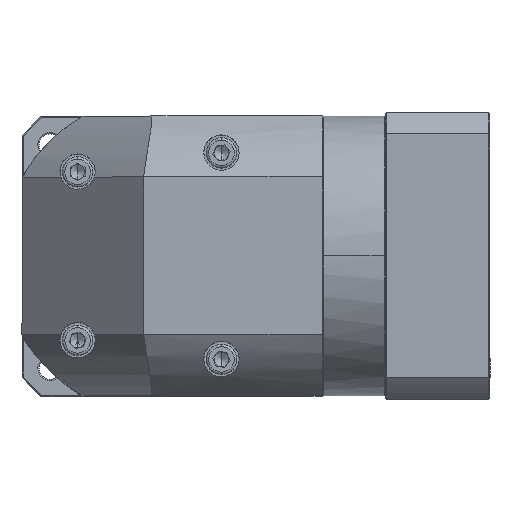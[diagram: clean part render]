
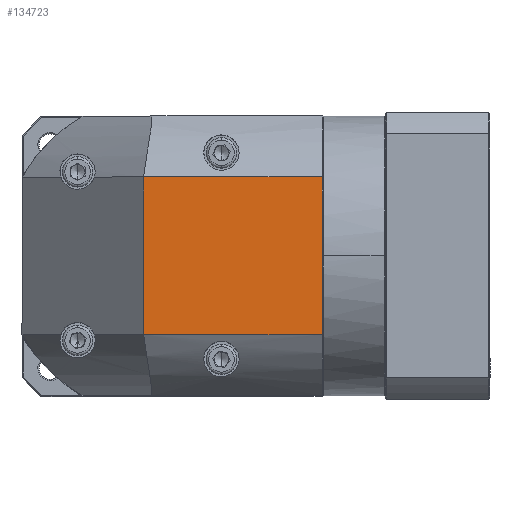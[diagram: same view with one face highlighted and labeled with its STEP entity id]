
A CAD part, top view. The second image highlights one B-rep face of the part: STEP entity #134723.
In plain terms, the highlighted planar face has unit normal (0, 0, 1).
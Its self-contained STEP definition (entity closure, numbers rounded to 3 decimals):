
#1729 = VERTEX_POINT ( 'NONE', #55257 ) ;
#2568 = ORIENTED_EDGE ( 'NONE', *, *, #81714, .F. ) ;
#4861 = DIRECTION ( 'NONE',  ( 0., 0., -1. ) ) ;
#6902 = LINE ( 'NONE', #37170, #38495 ) ;
#7917 = VERTEX_POINT ( 'NONE', #47249 ) ;
#13034 = ORIENTED_EDGE ( 'NONE', *, *, #129592, .F. ) ;
#16081 = EDGE_LOOP ( 'NONE', ( #47672, #2568, #52872, #13034 ) ) ;
#33977 = CARTESIAN_POINT ( 'NONE',  ( 36.723, 107.124, 83.721 ) ) ;
#35986 = VERTEX_POINT ( 'NONE', #115313 ) ;
#37170 = CARTESIAN_POINT ( 'NONE',  ( -13.277, 42.324, 83.721 ) ) ;
#38495 = VECTOR ( 'NONE', #48330, 1000. ) ;
#39877 = LINE ( 'NONE', #134272, #46559 ) ;
#41445 = FACE_OUTER_BOUND ( 'NONE', #16081, .T. ) ;
#41786 = VECTOR ( 'NONE', #75566, 1000. ) ;
#46236 = CARTESIAN_POINT ( 'NONE',  ( 110.123, 132.224, 83.721 ) ) ;
#46241 = DIRECTION ( 'NONE',  ( 0., -1., 0. ) ) ;
#46559 = VECTOR ( 'NONE', #50514, 1000. ) ;
#46712 = EDGE_CURVE ( 'NONE', #87369, #7917, #39877, .T. ) ;
#47249 = CARTESIAN_POINT ( 'NONE',  ( 110.123, 107.124, 83.721 ) ) ;
#47672 = ORIENTED_EDGE ( 'NONE', *, *, #46712, .F. ) ;
#48330 = DIRECTION ( 'NONE',  ( -1., 0., 0. ) ) ;
#50514 = DIRECTION ( 'NONE',  ( 1., 0., 0. ) ) ;
#52872 = ORIENTED_EDGE ( 'NONE', *, *, #124348, .F. ) ;
#55257 = CARTESIAN_POINT ( 'NONE',  ( 110.123, 42.324, 83.721 ) ) ;
#65735 = VECTOR ( 'NONE', #130914, 1000. ) ;
#75566 = DIRECTION ( 'NONE',  ( 0., 1., 0. ) ) ;
#78430 = LINE ( 'NONE', #117972, #41786 ) ;
#81714 = EDGE_CURVE ( 'NONE', #35986, #87369, #78430, .T. ) ;
#86963 = AXIS2_PLACEMENT_3D ( 'NONE', #109955, #4861, #46241 ) ;
#87369 = VERTEX_POINT ( 'NONE', #33977 ) ;
#109955 = CARTESIAN_POINT ( 'NONE',  ( 44.223, 74.724, 83.721 ) ) ;
#110861 = PLANE ( 'NONE',  #86963 ) ;
#115313 = CARTESIAN_POINT ( 'NONE',  ( 36.723, 42.324, 83.721 ) ) ;
#117972 = CARTESIAN_POINT ( 'NONE',  ( 36.723, 132.224, 83.721 ) ) ;
#122417 = LINE ( 'NONE', #46236, #65735 ) ;
#124348 = EDGE_CURVE ( 'NONE', #1729, #35986, #6902, .T. ) ;
#129592 = EDGE_CURVE ( 'NONE', #7917, #1729, #122417, .T. ) ;
#130914 = DIRECTION ( 'NONE',  ( 0., -1., 0. ) ) ;
#134272 = CARTESIAN_POINT ( 'NONE',  ( -13.277, 107.124, 83.721 ) ) ;
#134723 = ADVANCED_FACE ( 'NONE', ( #41445 ), #110861, .F. ) ;
